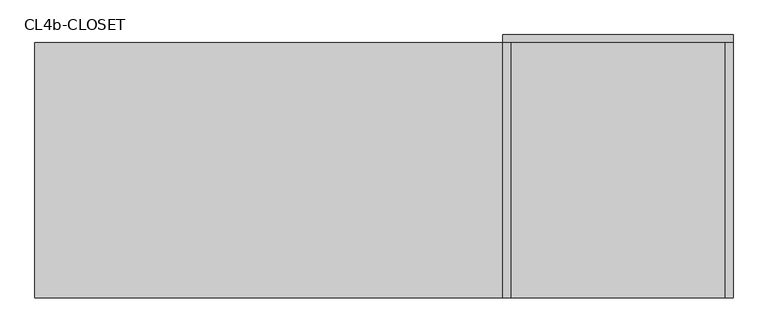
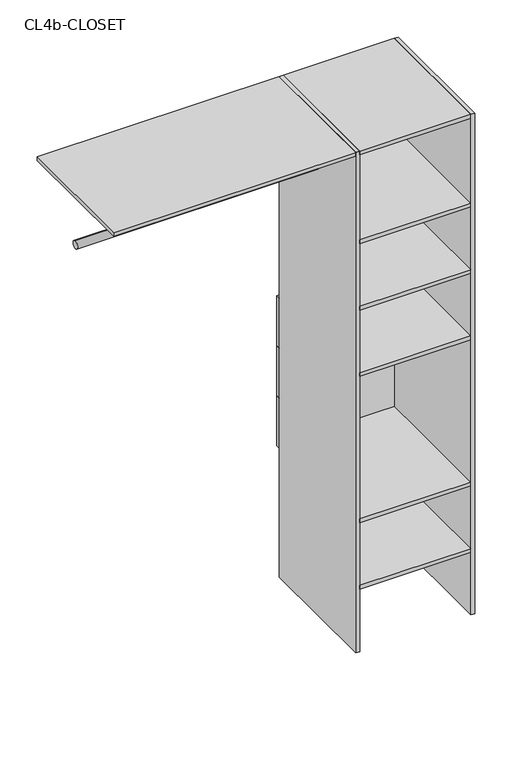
"""IFC4 building model written with IfcOpenShell, lengths in millimetres: furniture geometry, Closet 1estantes-1tubos_sin laterales : CL4b-CLOSET."""

from ifc_helpers import new_model, si_unit, point, frame, frame_2d, origin, origin_with_axes, place, context, project, spatial, polyline, circle_curve, trimmed, segment, composite_curve, outline, extrude, source, transform, mapped, element, save


def cl4b_closet_0a5770e6(model_context):
    return source(origin(), model_context, "Body", "SweptSolid", [
        extrude(outline(polyline([(225.0, -100.0), (225.0, -600.0), (210.0, -600.0), (210.0, -100.0), (225.0, -100.0)])), origin_with_axes(), (0.0, 0.0, 1.0), 2000.0),
        extrude(outline(polyline([(-210.0, -100.0), (-210.0, -600.0), (-225.0, -600.0), (-225.0, -100.0), (-210.0, -100.0)])), origin_with_axes(), (0.0, 0.0, 1.0), 2000.0),
        extrude(outline(polyline([(225.0, -100.0), (-225.0, -100.0), (-225.0, -85.0), (225.0, -85.0), (225.0, -100.0)])), frame((0.0, 0.0, 915.0), z_axis=(0.0, 0.0, 1.0), x_axis=(1.0, 0.0, 0.0)), (0.0, 0.0, 1.0), 200.0),
        extrude(outline(polyline([(225.0, -100.0), (-225.0, -100.0), (-225.0, -85.0), (225.0, -85.0), (225.0, -100.0)])), frame((0.0, 0.0, 715.0), z_axis=(0.0, 0.0, 1.0), x_axis=(1.0, 0.0, 0.0)), (0.0, 0.0, 1.0), 200.0),
        extrude(outline(polyline([(225.0, -100.0), (-225.0, -100.0), (-225.0, -85.0), (225.0, -85.0), (225.0, -100.0)])), frame((0.0, 0.0, 515.0), z_axis=(0.0, 0.0, 1.0), x_axis=(1.0, 0.0, 0.0)), (0.0, 0.0, 1.0), 200.0),
        extrude(outline(polyline([(210.0, -100.0), (210.0, -600.0), (-210.0, -600.0), (-210.0, -100.0), (210.0, -100.0)])), frame((0.0, 0.0, 1100.0), z_axis=(0.0, 0.0, 1.0), x_axis=(1.0, 0.0, 0.0)), (0.0, 0.0, 1.0), 15.0),
        extrude(outline(composite_curve([segment(trimmed(circle_curve(frame_2d((-350.0, 1800.0)), 15.0), [point((-350.0, 1815.0))], [point((-350.0, 1785.0))], False, "CARTESIAN"), True, "CONTINUOUS"), segment(trimmed(circle_curve(frame_2d((-350.0, 1800.0)), 15.0), [point((-350.0, 1785.0))], [point((-350.0, 1815.0))], False, "CARTESIAN"), True, "CONTINUOUS")], self_intersect=False)), frame((-1140.0, 0.0, 0.0), z_axis=(1.0, 0.0, 0.0), x_axis=(0.0, 1.0, 0.0)), (0.0, 0.0, 1.0), 915.0),
        extrude(outline(composite_curve([segment(trimmed(circle_curve(frame_2d((-350.0, 1800.0)), 15.0), [point((-350.0, 1815.0))], [point((-350.0, 1785.0))], False, "CARTESIAN"), True, "CONTINUOUS"), segment(trimmed(circle_curve(frame_2d((-350.0, 1800.0)), 15.0), [point((-350.0, 1785.0))], [point((-350.0, 1815.0))], False, "CARTESIAN"), True, "CONTINUOUS")], self_intersect=False)), frame((-1140.0, 0.0, 0.0), z_axis=(1.0, 0.0, 0.0), x_axis=(0.0, 1.0, 0.0)), (0.0, 0.0, 1.0), 915.0),
        extrude(outline(polyline([(210.0, -100.0), (210.0, -600.0), (-210.0, -600.0), (-210.0, -100.0), (210.0, -100.0)])), frame((0.0, 0.0, 250.0), z_axis=(0.0, 0.0, 1.0), x_axis=(1.0, 0.0, 0.0)), (0.0, 0.0, 1.0), 15.0),
        extrude(outline(polyline([(210.0, -100.0), (210.0, -600.0), (-210.0, -600.0), (-210.0, -100.0), (210.0, -100.0)])), frame((0.0, 0.0, 515.0), z_axis=(0.0, 0.0, 1.0), x_axis=(1.0, 0.0, 0.0)), (0.0, 0.0, 1.0), 15.0),
        extrude(outline(polyline([(210.0, -100.0), (210.0, -600.0), (-210.0, -600.0), (-210.0, -100.0), (210.0, -100.0)])), frame((0.0, 0.0, 1365.0), z_axis=(0.0, 0.0, 1.0), x_axis=(1.0, 0.0, 0.0)), (0.0, 0.0, 1.0), 15.0),
        extrude(outline(polyline([(210.0, -100.0), (210.0, -600.0), (-210.0, -600.0), (-210.0, -100.0), (210.0, -100.0)])), frame((0.0, 0.0, 1630.0), z_axis=(0.0, 0.0, 1.0), x_axis=(1.0, 0.0, 0.0)), (0.0, 0.0, 1.0), 15.0),
        extrude(outline(polyline([(-210.0, -100.0), (-210.0, -600.0), (-1140.0, -600.0), (-1140.0, -100.0), (-210.0, -100.0)])), frame((0.0, 0.0, 1985.0), z_axis=(0.0, 0.0, 1.0), x_axis=(1.0, 0.0, 0.0)), (0.0, 0.0, 1.0), 15.0),
        extrude(outline(polyline([(210.0, -100.0), (210.0, -600.0), (-210.0, -600.0), (-210.0, -100.0), (210.0, -100.0)])), frame((0.0, 0.0, 1985.0), z_axis=(0.0, 0.0, 1.0), x_axis=(1.0, 0.0, 0.0)), (0.0, 0.0, 1.0), 15.0),
    ])


if __name__ == "__main__":
    model = new_model("IFC4")
    model_context = context("Model", 3, world=origin())
    ifc_project = project(units=[si_unit("LENGTHUNIT", "METRE", prefix="MILLI")], contexts=[model_context])
    site = spatial("IfcSite", under=ifc_project)
    building = spatial("IfcBuilding", under=site)
    placement = place(None, origin())
    cl4b_closet_shape = cl4b_closet_0a5770e6(model_context)
    element("IfcFurniture", 1, ObjectType="Closet 1estantes-1tubos_sin laterales : CL4b-CLOSET", at=placement, inside=building, context=model_context, shape_type="MappedRepresentation", body=[
        mapped(cl4b_closet_shape, transform((0.0, 0.0, 0.0), x_axis=(1.0, 0.0, 0.0), y_axis=(0.0, 1.0, 0.0), z_axis=(0.0, 0.0, 1.0))),
    ])
    save(model, "model.ifc")
